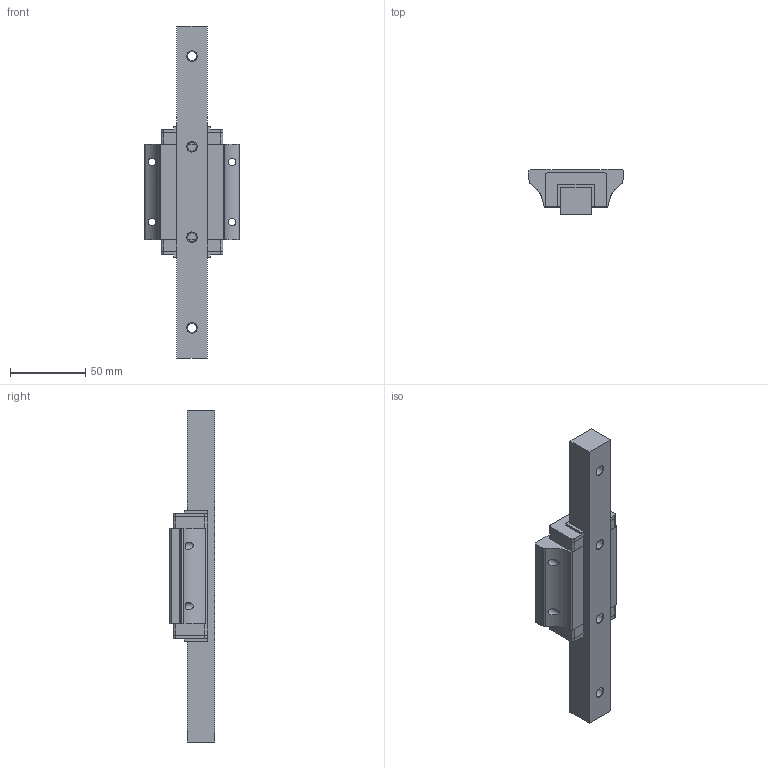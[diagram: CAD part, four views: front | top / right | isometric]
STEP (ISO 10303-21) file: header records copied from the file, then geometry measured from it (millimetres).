
FILE_DESCRIPTION((''),'2;1');
FILE_NAME('E:\PDF郪磁芞\DFH20AL.STP','2018-01-27T14:18:12',(''),(''),'STEP Write','Mastercam V9 ... CNC Software, Inc.','');
FILE_SCHEMA(('CONFIG_CONTROL_DESIGN'));
Length unit declared in the file: millimetre
Bounding box: 63 x 30 x 220 mm (x, y, z)
Volume: 155689.5 mm3; surface area: 42111.8 mm2
Topology: 6 solids, 6 shells, 124 faces, 608 edges, 780 vertices
Faces by surface type: plane 84, cylinder 32, cone 8
Full cylindrical faces by diameter (mm): 5 x4, 6 x4, 9.5 x4
Entity records: 6496 total; most frequent: CARTESIAN_POINT 2191, DIRECTION 931, ORIENTED_EDGE 616, VECTOR 429, LINE 429, EDGE_CURVE 308, TRIMMED_CURVE 272, AXIS2_PLACEMENT_3D 251
